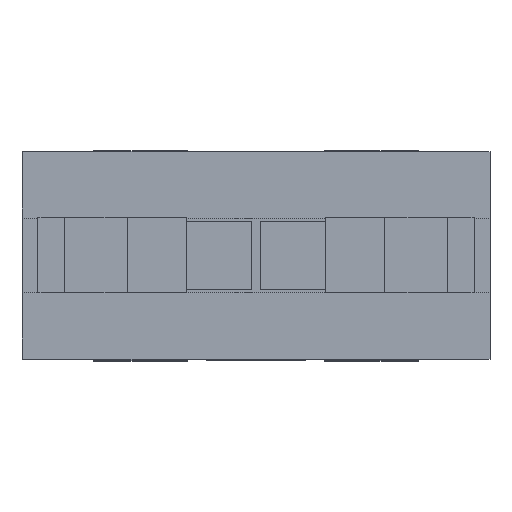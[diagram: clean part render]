
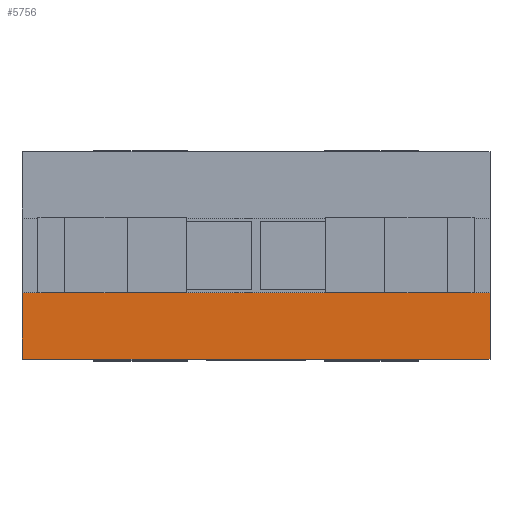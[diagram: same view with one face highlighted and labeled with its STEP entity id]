
A CAD part, top view. The second image highlights one B-rep face of the part: STEP entity #5756.
In plain terms, the highlighted planar face has unit normal (0, 0, 1).
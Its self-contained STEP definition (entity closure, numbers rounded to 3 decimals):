
#216 = VERTEX_POINT ( 'NONE', #1187 ) ;
#910 = DIRECTION ( 'NONE',  ( 0., -1., 0. ) ) ;
#1034 = DIRECTION ( 'NONE',  ( 0., -1., 0. ) ) ;
#1187 = CARTESIAN_POINT ( 'NONE',  ( 37.5, -6., 87.9 ) ) ;
#1391 = VERTEX_POINT ( 'NONE', #2452 ) ;
#1668 = ORIENTED_EDGE ( 'NONE', *, *, #4395, .F. ) ;
#1825 = ORIENTED_EDGE ( 'NONE', *, *, #3182, .F. ) ;
#1894 = PLANE ( 'NONE',  #1902 ) ;
#1902 = AXIS2_PLACEMENT_3D ( 'NONE', #2058, #2111, #2173 ) ;
#2058 = CARTESIAN_POINT ( 'NONE',  ( 37.5, -6., 87.9 ) ) ;
#2111 = DIRECTION ( 'NONE',  ( 0., 0., -1. ) ) ;
#2173 = DIRECTION ( 'NONE',  ( -1., 0., 0. ) ) ;
#2452 = CARTESIAN_POINT ( 'NONE',  ( -37.5, -6., 87.9 ) ) ;
#3167 = CARTESIAN_POINT ( 'NONE',  ( 37.5, 0., 87.9 ) ) ;
#3182 = EDGE_CURVE ( 'NONE', #1391, #216, #4794, .T. ) ;
#3419 = EDGE_CURVE ( 'NONE', #1391, #3637, #3846, .T. ) ;
#3429 = FACE_OUTER_BOUND ( 'NONE', #4117, .T. ) ;
#3637 = VERTEX_POINT ( 'NONE', #5228 ) ;
#3679 = VERTEX_POINT ( 'NONE', #5635 ) ;
#3773 = VECTOR ( 'NONE', #1034, 1000. ) ;
#3846 = LINE ( 'NONE', #4347, #3773 ) ;
#4007 = ORIENTED_EDGE ( 'NONE', *, *, #4187, .T. ) ;
#4117 = EDGE_LOOP ( 'NONE', ( #4007, #1668, #1825, #5455 ) ) ;
#4187 = EDGE_CURVE ( 'NONE', #3637, #3679, #5415, .T. ) ;
#4338 = LINE ( 'NONE', #3167, #4400 ) ;
#4347 = CARTESIAN_POINT ( 'NONE',  ( -37.5, 0., 87.9 ) ) ;
#4395 = EDGE_CURVE ( 'NONE', #216, #3679, #4338, .T. ) ;
#4400 = VECTOR ( 'NONE', #910, 1000. ) ;
#4721 = VECTOR ( 'NONE', #4881, 1000. ) ;
#4794 = LINE ( 'NONE', #5186, #4721 ) ;
#4881 = DIRECTION ( 'NONE',  ( 1., 0., 0. ) ) ;
#5186 = CARTESIAN_POINT ( 'NONE',  ( 37.5, -6., 87.9 ) ) ;
#5228 = CARTESIAN_POINT ( 'NONE',  ( -37.5, -16.6, 87.9 ) ) ;
#5274 = DIRECTION ( 'NONE',  ( 1., 0., 0. ) ) ;
#5415 = LINE ( 'NONE', #5671, #5494 ) ;
#5455 = ORIENTED_EDGE ( 'NONE', *, *, #3419, .T. ) ;
#5494 = VECTOR ( 'NONE', #5274, 1000. ) ;
#5635 = CARTESIAN_POINT ( 'NONE',  ( 37.5, -16.6, 87.9 ) ) ;
#5671 = CARTESIAN_POINT ( 'NONE',  ( 37.5, -16.6, 87.9 ) ) ;
#5756 = ADVANCED_FACE ( 'NONE', ( #3429 ), #1894, .F. ) ;
